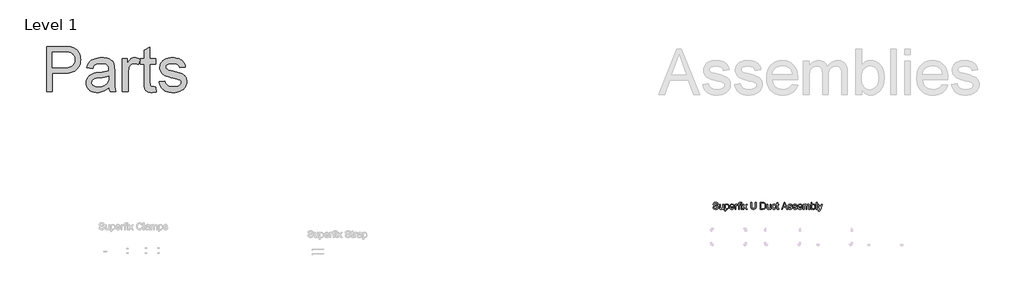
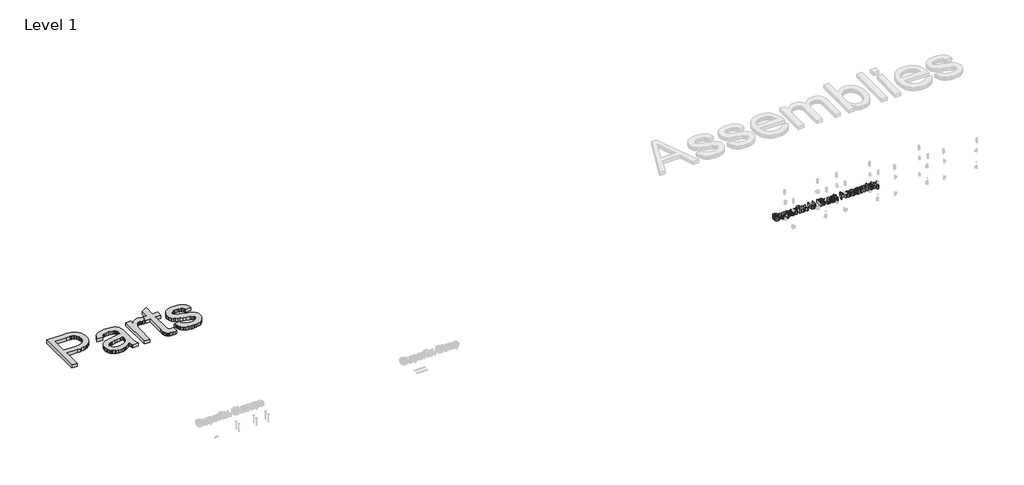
# One storey, part 30 of 32: 2 proxies.
"""IFC4 building model written with IfcOpenShell, lengths in millimetres."""

from ifc_helpers import new_model, si_unit, origin, origin_with_axes, place, context, project, spatial, polyline, outline, extrude, element, save

model = new_model("IFC4")

# Units and contexts
model_context = context("Model", 3, world=origin())
ifc_project = project(units=[si_unit("LENGTHUNIT", "METRE", prefix="MILLI")], contexts=[model_context])

# Site, building, storey
site = spatial("IfcSite", under=ifc_project)
building = spatial("IfcBuilding", under=site)
storey = spatial("IfcBuildingStorey", under=building, Name="Level 1", Elevation=0.0)

# Proxies
placement = place(None, origin())
element("IfcBuildingElementProxy", 1, Name="2000mm Arial", ObjectType="2000mm Arial", at=placement, inside=storey, context=model_context, shape_type="SweptSolid", body=[
    extrude(outline(polyline([(-52092.9276669, 35564.9201987), (-52092.9276669, 37574.0464017), (-51348.3345086, 37574.0464017), (-51174.9394616, 37569.2639358), (-51105.7163328, 37563.2858534), (-51048.1428006, 37554.916538), (-50978.2605499, 37539.8487046), (-50914.295068, 37519.1706708), (-50856.2463548, 37492.8824365), (-50804.1144104, 37460.9840019), (-50757.3474118, 37422.8162449), (-50715.3935359, 37377.7200436), (-50678.2527828, 37325.6953981), (-50645.9251525, 37266.7423084), (-50619.7442172, 37202.8074833), (-50601.0435491, 37135.8376318), (-50589.8231482, 37065.8327538), (-50586.0830146, 36992.7928493), (-50588.6083712, 36929.8926924), (-50596.1844411, 36869.4604105), (-50608.8112241, 36811.4960036), (-50626.4887204, 36755.9994718), (-50649.2169299, 36702.970815), (-50676.9958527, 36652.4100333), (-50709.8254887, 36604.3171266), (-50747.7058378, 36558.692095), (-50792.1774061, 36517.0754443), (-50844.7806993, 36481.0076804), (-50905.5157175, 36450.4888032), (-50974.3824605, 36425.5188128), (-51051.3809286, 36406.0977091), (-51136.5111215, 36392.2254922), (-51229.7730394, 36383.9021621), (-51331.1666822, 36381.1277187), (-51841.7868915, 36381.1277187), (-51841.7868915, 35564.9201987), (-52092.9276669, 35564.9201987)]), holes=[polyline([(-51841.7868915, 36632.2684941), (-51316.4514024, 36632.2684941), (-51195.6634806, 36638.0319787), (-51142.3512482, 36645.2363344), (-51093.760168, 36655.3224324), (-51049.89024, 36668.2902728), (-51010.7414644, 36684.1398554), (-50976.313841, 36702.8711803), (-50946.6073699, 36724.4842475), (-50920.9705934, 36748.7108098), (-50898.7520537, 36775.2826197), (-50879.9517509, 36804.1996774), (-50864.569685, 36835.4619827), (-50852.6058559, 36869.0695358), (-50844.0602637, 36905.0223367), (-50838.9329084, 36943.3203852), (-50837.22379, 36983.9636815), (-50841.2551635, 37042.579546), (-50853.3492841, 37096.7808266), (-50873.5061518, 37146.5675233), (-50901.7257665, 37191.9396361), (-50936.5059435, 37231.4256369), (-50976.3444978, 37263.5539978), (-51021.2414297, 37288.3247188), (-51071.1967389, 37305.7377999), (-51112.4608361, 37313.248724), (-51168.072331, 37318.6136697), (-51322.3375143, 37322.9056264), (-51841.7868915, 37322.9056264), (-51841.7868915, 36632.2684941)])]), origin_with_axes(), (0.0, 0.0, 1.0), 150.0),
    extrude(outline(polyline([(-49330.3791378, 35753.2757803), (-49389.9300357, 35697.3883738), (-49450.3699819, 35650.3914489), (-49511.6989761, 35612.2850056), (-49573.9170186, 35583.0690438), (-49637.7292163, 35561.3946629), (-49703.8406765, 35545.9129623), (-49772.2513992, 35536.6239419), (-49842.9613844, 35533.5276018), (-49900.5923982, 35535.3900044), (-49954.7821825, 35540.9772122), (-50005.5307373, 35550.2892252), (-50052.8380626, 35563.3260434), (-50096.7041584, 35580.0876668), (-50137.1290248, 35600.5740954), (-50174.1126616, 35624.7853292), (-50207.6550689, 35652.7213682), (-50237.4879995, 35683.554478), (-50263.3432059, 35716.4569239), (-50285.2206883, 35751.4287061), (-50303.1204467, 35788.4698245), (-50317.0424809, 35827.5802791), (-50326.9867911, 35868.7600699), (-50332.9533772, 35912.009197), (-50334.9422393, 35957.3276603), (-50331.9378696, 36010.5785791), (-50322.9247607, 36061.4382649), (-50307.9029126, 36109.9067178), (-50286.8723252, 36155.9839377), (-50260.951973, 36198.6582491), (-50231.2608303, 36236.9179766), (-50197.7988971, 36270.7631201), (-50160.5661735, 36300.1936798), (-50120.2371098, 36325.7614784), (-50077.4861563, 36348.0183391), (-50032.313313, 36366.9642619), (-49984.7185798, 36382.5992467), (-49894.3422364, 36401.8517378), (-49767.422948, 36420.3684649), (-49629.2832588, 36439.3757013), (-49510.6413154, 36460.0997203), (-49411.4971177, 36482.540522), (-49331.8506657, 36506.6981064), (-49330.3791378, 36562.6161697), (-49334.7017512, 36623.5006399), (-49347.6695915, 36674.6975509), (-49369.2826588, 36716.2069026), (-49383.3311524, 36733.3287438), (-49399.5409529, 36748.0286952), (-49424.2656886, 36765.0432375), (-49451.8415098, 36779.7891741), (-49515.5464087, 36802.4752305), (-49590.6556493, 36816.0868643), (-49677.1692319, 36820.6240756), (-49757.6127615, 36817.6043776), (-49826.7745766, 36808.5452834), (-49884.6546772, 36793.4467932), (-49931.2530632, 36772.3089069), (-49969.5434475, 36743.4761555), (-50002.4995429, 36705.2930701), (-50030.1213494, 36657.7596507), (-50052.408867, 36600.8758972), (-50303.5496423, 36632.2684941), (-50284.435107, 36704.6186198), (-50259.9556259, 36769.6111056), (-50230.111199, 36827.2459515), (-50194.9018264, 36877.5231575), (-50152.8099948, 36921.4543991), (-50102.318191, 36960.0513518), (-50043.4264149, 36993.3140155), (-49976.1346666, 37021.2423903), (-49901.8071752, 37043.3459669), (-49821.8081697, 37059.1342358), (-49736.13765, 37068.6071972), (-49644.7956163, 37071.764851), (-49555.5075904, 37068.9750792), (-49475.0180755, 37060.6057638), (-49403.3270717, 37046.6569048), (-49340.434579, 37027.1285022), (-49285.8194311, 37003.3847851), (-49238.960462, 36976.7899826), (-49199.8576716, 36947.3440945), (-49168.5110599, 36915.047121), (-49143.0965454, 36879.1019844), (-49121.7900465, 36838.711607), (-49104.5915632, 36793.8759889), (-49091.5010956, 36744.5951299), (-49082.3040457, 36657.7749791), (-49079.2383624, 36524.8469515), (-49079.2383624, 36212.3925102), (-49076.0500518, 35940.2211475), (-49066.4851199, 35776.084464), (-49058.575657, 35721.5919434), (-49047.6005108, 35668.2337257), (-49033.5596813, 35616.0098108), (-49016.4531685, 35564.9201987), (-49267.5939439, 35564.9201987), (-49289.9121183, 35606.8587462), (-49307.8157087, 35652.2308589), (-49321.3047152, 35701.0365369), (-49330.3791378, 35753.2757803)]), holes=[polyline([(-49330.3791378, 36255.557331), (-49406.2854561, 36233.8216365), (-49499.1143462, 36213.7414109), (-49608.8658081, 36195.3166543), (-49735.5398418, 36178.5473667), (-49865.8313817, 36159.2948756), (-49914.2845062, 36148.8408956), (-49951.6092003, 36137.8350926), (-49981.5455976, 36125.2351342), (-50007.8338319, 36109.9986883), (-50030.473903, 36092.1257547), (-50049.465811, 36071.6163334), (-50064.4876591, 36049.2061886), (-50075.2175507, 36025.631084), (-50081.6554856, 36000.8910199), (-50083.8014639, 35974.985996), (-50079.1262969, 35935.9598477), (-50065.1007958, 35900.305951), (-50041.7249607, 35868.0243059), (-50008.9987915, 35839.1149125), (-49967.2288567, 35815.2945533), (-49916.7217244, 35798.280011), (-49857.4773948, 35788.0712856), (-49789.4958677, 35784.6683772), (-49720.088798, 35788.4238392), (-49654.6058028, 35799.6902253), (-49593.0468823, 35818.4675355), (-49535.4120364, 35844.7557697), (-49483.4180478, 35876.3782929), (-49438.781699, 35911.1584699), (-49401.5029902, 35949.0963006), (-49371.5819212, 35990.1917852), (-49354.1994969, 36026.9799847), (-49341.7834796, 36071.6163334), (-49334.3338692, 36124.1008314), (-49331.8506657, 36184.4334786), (-49330.3791378, 36255.557331)])]), origin_with_axes(), (0.0, 0.0, 1.0), 150.0),
    extrude(outline(polyline([(-48733.9197962, 35564.9201987), (-48733.9197962, 37040.3722541), (-48514.1716178, 37040.3722541), (-48514.1716178, 36822.0956036), (-48472.7848933, 36891.8705553), (-48432.9923242, 36948.6470099), (-48394.7939104, 36992.4249674), (-48358.1896518, 37023.2044276), (-48321.5240797, 37044.4496128), (-48283.1417248, 37059.6247451), (-48243.0425873, 37068.7298245), (-48201.2266672, 37071.764851), (-48138.9319827, 37066.9210714), (-48076.1467889, 37052.3897326), (-48012.8710857, 37028.1708345), (-47949.1048732, 36994.2643773), (-48032.9819681, 36769.1205963), (-48077.1278075, 36791.6533685), (-48121.2736469, 36807.7482058), (-48165.4194864, 36817.4051081), (-48209.5653258, 36820.6240756), (-48248.0549795, 36817.5277355), (-48284.5519391, 36808.2387151), (-48319.0562046, 36792.7570145), (-48351.5677759, 36771.0826336), (-48380.8603798, 36743.9206796), (-48405.7077429, 36711.9762597), (-48426.1098652, 36675.2493738), (-48442.0667467, 36633.7400221), (-48459.8783667, 36565.1913436), (-48472.6009523, 36493.4543546), (-48480.2345037, 36418.5290549), (-48482.7790209, 36340.4154446), (-48482.7790209, 35564.9201987), (-48733.9197962, 35564.9201987)])), origin_with_axes(), (0.0, 0.0, 1.0), 150.0),
    extrude(outline(polyline([(-47258.4677409, 35774.3676813), (-47227.075144, 35557.5625588), (-47326.52591, 35539.5363411), (-47414.9402162, 35533.5276018), (-47479.0436539, 35536.1334326), (-47535.4828833, 35543.950925), (-47584.2579045, 35556.980079), (-47625.3687174, 35575.2208946), (-47659.8883113, 35597.6923531), (-47688.8896753, 35623.413436), (-47712.3728093, 35652.3841431), (-47730.3377134, 35684.6044745), (-47743.6427789, 35727.7999521), (-47753.1463971, 35789.6960978), (-47758.848568, 35870.2929116), (-47760.7492917, 35969.5903934), (-47760.7492917, 36789.2314787), (-47949.1048732, 36789.2314787), (-47949.1048732, 37040.3722541), (-47760.7492917, 37040.3722541), (-47760.7492917, 37398.934572), (-47509.6085163, 37546.5778794), (-47509.6085163, 37040.3722541), (-47258.4677409, 37040.3722541), (-47258.4677409, 36789.2314787), (-47509.6085163, 36789.2314787), (-47509.6085163, 35976.9480333), (-47506.2975783, 35894.2972117), (-47502.1589059, 35866.3994938), (-47496.3647645, 35847.453571), (-47479.012997, 35821.5178904), (-47453.4451984, 35801.590949), (-47417.2088218, 35788.8990201), (-47367.8513208, 35784.6683772), (-47319.9040341, 35782.0932032), (-47258.4677409, 35774.3676813)])), origin_with_axes(), (0.0, 0.0, 1.0), 150.0),
    extrude(outline(polyline([(-47101.5047563, 36004.4165556), (-46850.3639809, 36035.8091526), (-46835.1888486, 35978.5421886), (-46810.7553528, 35928.38761), (-46777.0634934, 35885.3454165), (-46734.1132705, 35849.4156083), (-46681.7820567, 35821.0886947), (-46619.9472246, 35800.855185), (-46548.6087744, 35788.7150791), (-46467.766706, 35784.6683772), (-46387.016608, 35788.377854), (-46317.4255973, 35799.5062843), (-46258.9936737, 35818.0536682), (-46211.7208373, 35844.0200057), (-46175.2392061, 35874.983407), (-46149.1808981, 35908.5219822), (-46133.5459133, 35944.6357314), (-46128.3342517, 35983.3246546), (-46133.5765702, 36017.2311118), (-46149.3035255, 36047.3361217), (-46175.5151176, 36073.6396844), (-46212.2113466, 36096.1417998), (-46250.4404173, 36111.1023342), (-46306.2665101, 36128.024906), (-46470.7097619, 36167.7561615), (-46595.3297878, 36202.1071428), (-46699.9002449, 36234.0362343), (-46784.4211333, 36263.543436), (-46848.892453, 36290.6287479), (-46900.0433787, 36319.0016468), (-46944.6030854, 36352.3716094), (-46982.571573, 36390.7386358), (-47013.9488415, 36434.102726), (-47038.5202931, 36481.1609646), (-47056.0713299, 36530.6104361), (-47066.601952, 36582.4511406), (-47070.1121594, 36636.683078), (-47067.2917308, 36686.2705053), (-47058.8304449, 36733.9878657), (-47044.7283017, 36779.8351594), (-47024.9853013, 36823.8123862), (-47000.3678645, 36865.0304981), (-46971.642412, 36902.6004469), (-46938.8089439, 36936.5222325), (-46901.8674603, 36966.795855), (-46869.8157414, 36987.811114), (-46832.5217042, 37007.2015608), (-46789.9853485, 37024.9671955), (-46742.2066744, 37041.108018), (-46690.9024644, 37054.5203825), (-46637.7895014, 37064.1006427), (-46582.8677852, 37069.8487989), (-46526.1373159, 37071.764851), (-46441.7390548, 37068.6838393), (-46362.6750827, 37059.4408041), (-46288.9453995, 37044.0357456), (-46220.5500052, 37022.4686636), (-46159.113712, 36995.6439348), (-46106.261332, 36964.4659357), (-46061.9928653, 36928.9346664), (-46026.3083117, 36889.0501267), (-45997.3682615, 36843.4174309), (-45973.3333044, 36790.641693), (-45954.2034407, 36730.722913), (-45939.9786702, 36663.661091), (-46191.1194456, 36632.2684941), (-46203.0909388, 36674.2223699), (-46222.8186108, 36711.3018094), (-46250.3024616, 36743.5068124), (-46285.542491, 36770.8373789), (-46328.6919834, 36792.6190587), (-46379.9042228, 36808.1774014), (-46439.1792092, 36817.5124071), (-46506.5169428, 36820.6240756), (-46584.6305531, 36817.6503628), (-46650.7266849, 36808.7292244), (-46704.8053382, 36793.8606605), (-46746.866513, 36773.0446709), (-46778.4123941, 36748.2739499), (-46800.9451663, 36721.5411916), (-46814.4648296, 36692.8463959), (-46818.971384, 36662.189563), (-46817.1013172, 36642.3545921), (-46811.4911168, 36623.5619535), (-46802.1407827, 36605.8116473), (-46789.0503151, 36589.1036733), (-46771.9744591, 36572.9475224), (-46750.6679602, 36558.324213), (-46695.3630336, 36533.6761194), (-46479.0484205, 36480.2106027), (-46257.1542637, 36414.6049803), (-46174.3961432, 36386.6766055), (-46110.4306613, 36361.9978549), (-46058.8045547, 36336.3380858), (-46013.0645599, 36305.466655), (-45973.2106771, 36269.3835627), (-45939.2429062, 36228.0888087), (-45912.0962807, 36181.5210795), (-45892.7058338, 36129.6190613), (-45881.0715657, 36072.3827542), (-45877.1934764, 36009.8121582), (-45881.7460161, 35946.9656507), (-45895.4036351, 35885.9585532), (-45918.1663336, 35826.7908656), (-45950.0341114, 35769.4625881), (-45990.4858025, 35716.2576545), (-46039.0002406, 35669.459999), (-46095.5774258, 35629.0696216), (-46160.217358, 35595.0865223), (-46231.1572694, 35568.1544946), (-46306.6343921, 35548.9173319), (-46386.648726, 35537.3750343), (-46471.2002712, 35533.5276018), (-46540.9215735, 35535.3823402), (-46606.3662476, 35540.9465554), (-46667.5342935, 35550.2202473), (-46724.4257113, 35563.2034161), (-46777.0405008, 35579.8960616), (-46825.3786621, 35600.2981839), (-46869.4401952, 35624.409783), (-46909.2251002, 35652.2308589), (-46945.1702368, 35683.7000979), (-46977.7124649, 35718.7561864), (-47006.8517846, 35757.3991243), (-47032.5881959, 35799.6289117), (-47054.9216987, 35845.4455485), (-47073.852293, 35894.8490347), (-47089.3799789, 35947.8393705), (-47101.5047563, 36004.4165556)])), origin_with_axes(), (0.0, 0.0, 1.0), 150.0),
])
element("IfcBuildingElementProxy", 2, Name="300mm Arial 2", ObjectType="300mm Arial 2", at=placement, inside=storey, context=model_context, shape_type="SweptSolid", body=[
    extrude(outline(polyline([(-22560.2603171, 30453.0745423), (-22522.5892008, 30453.0745423), (-22518.2665873, 30432.1696479), (-22510.4490949, 30415.3666378), (-22498.2538068, 30402.0309154), (-22480.7978061, 30391.5278845), (-22459.4606504, 30384.7128705), (-22435.6218971, 30382.4411992), (-22414.6342293, 30384.1610475), (-22396.2585236, 30389.3205925), (-22381.3684999, 30397.4875728), (-22370.8378778, 30408.2297271), (-22364.5746868, 30420.5629709), (-22362.4869565, 30433.5032201), (-22364.0504549, 30446.1123755), (-22368.7409504, 30457.0108796), (-22378.2690941, 30466.309097), (-22394.3455372, 30474.1173924), (-22449.1967427, 30488.5015784), (-22485.203193, 30498.020525), (-22508.241803, 30507.0796192), (-22526.9945877, 30519.7531539), (-22540.2843247, 30535.1122272), (-22548.2029847, 30552.8257453), (-22550.842538, 30572.5626143), (-22547.5775853, 30594.626337), (-22537.7827272, 30615.2001375), (-22521.715481, 30632.6377441), (-22499.6333643, 30645.2928848), (-22473.1274665, 30652.9908155), (-22443.7888774, 30655.5567924), (-22412.003873, 30652.8712539), (-22384.1919942, 30644.8146382), (-22361.3465223, 30631.5524922), (-22344.4607387, 30613.250363), (-22333.7737667, 30591.0486846), (-22329.5247297, 30566.0878912), (-22367.195846, 30566.0878912), (-22374.1120275, 30588.5654811), (-22388.5330017, 30604.7890771), (-22411.0657739, 30614.6115264), (-22442.3173494, 30617.8856761), (-22474.3046889, 30614.6483146), (-22496.2488499, 30604.9362299), (-22508.9407787, 30590.6440144), (-22513.1714217, 30573.6662603), (-22510.1731834, 30559.1901038), (-22501.1784686, 30547.5466386), (-22479.9148893, 30537.1355782), (-22439.6685991, 30526.5037885), (-22398.1347218, 30516.4054277), (-22373.0083815, 30507.594654), (-22351.5332701, 30493.9278378), (-22336.5512758, 30477.0604484), (-22327.7496991, 30457.1764265), (-22324.8158402, 30434.4597133), (-22328.1911575, 30411.2371624), (-22338.3171094, 30389.3941689), (-22354.7798287, 30370.595399), (-22377.1654481, 30356.5055185), (-22404.0852131, 30347.7039418), (-22434.1503691, 30344.7700829), (-22471.0581303, 30347.9338681), (-22501.435986, 30357.4252235), (-22525.6334243, 30373.2809375), (-22543.9999329, 30395.5377982), (-22555.7905508, 30422.6507013), (-22560.2603171, 30453.0745423)])), origin_with_axes(), (0.0, 0.0, 1.0), 150.0),
    extrude(outline(polyline([(-22131.7513691, 30349.4789724), (-22131.7513691, 30387.5179707), (-22145.381397, 30368.8157698), (-22161.2555051, 30355.4570549), (-22179.3736934, 30347.4418259), (-22199.7359618, 30344.7700829), (-22218.0840763, 30346.6462811), (-22235.1629979, 30352.2748756), (-22249.4920016, 30360.7361615), (-22259.5903624, 30371.1104337), (-22270.8107633, 30398.8487362), (-22273.0180552, 30433.8711021), (-22273.0180552, 30570.7967807), (-22235.3469389, 30570.7967807), (-22235.3469389, 30451.6030143), (-22233.0660706, 30413.196134), (-22227.5754318, 30400.3846435), (-22218.1668498, 30390.6449677), (-22205.4657239, 30384.4921413), (-22190.0974535, 30382.4411992), (-22173.8462664, 30384.5381266), (-22158.6435429, 30390.8289087), (-22146.1079639, 30400.7341314), (-22137.8582102, 30413.6743806), (-22133.2780794, 30431.3970957), (-22131.7513691, 30455.6497162), (-22131.7513691, 30570.7967807), (-22094.0802528, 30570.7967807), (-22094.0802528, 30349.4789724), (-22131.7513691, 30349.4789724)])), origin_with_axes(), (0.0, 0.0, 1.0), 150.0),
    extrude(outline(polyline([(-22042.2824679, 30264.7189607), (-22042.2824679, 30570.7967807), (-22004.6113516, 30570.7967807), (-22004.6113516, 30533.8614284), (-21992.3240929, 30552.0807842), (-21978.5653063, 30565.0946098), (-21962.5256513, 30572.9029052), (-21943.3957876, 30575.5056703), (-21917.9199594, 30571.8636385), (-21895.6447046, 30560.9375433), (-21877.5081222, 30543.3895721), (-21864.4483114, 30519.8819126), (-21856.5572426, 30492.1252161), (-21853.9268863, 30461.8301338), (-21856.8975334, 30429.612868), (-21865.8094748, 30400.7985108), (-21880.3776018, 30376.8493929), (-21900.3168059, 30359.2278453), (-21923.5393569, 30348.3845235), (-21947.9575243, 30344.7700829), (-21965.2755692, 30347.188907), (-21980.7358101, 30354.4453794), (-21993.9703648, 30365.3990658), (-22004.6113516, 30378.909532), (-22004.6113516, 30264.7189607), (-22042.2824679, 30264.7189607)]), holes=[polyline([(-22004.6113516, 30458.372043), (-22000.5370585, 30424.6004758), (-21988.3141792, 30400.9824518), (-21970.2787644, 30387.0765123), (-21948.7668647, 30382.4411992), (-21926.9054771, 30387.2420592), (-21908.4102098, 30401.6446393), (-21895.8010544, 30426.1271861), (-21891.5980026, 30461.1679462), (-21895.6998869, 30494.7555723), (-21908.0055396, 30518.7046902), (-21926.0133633, 30533.052088), (-21947.2217603, 30537.834554), (-21968.5129308, 30532.7485854), (-21987.2105332, 30517.4906796), (-22000.261147, 30492.5390833), (-22004.6113516, 30458.372043)])]), origin_with_axes(), (0.0, 0.0, 1.0), 150.0),
    extrude(outline(polyline([(-21656.5949841, 30415.403426), (-21619.6596318, 30410.6945364), (-21632.967763, 30382.8642635), (-21654.2037511, 30362.0605367), (-21682.8893497, 30349.0926963), (-21718.5463121, 30344.7700829), (-21741.9206144, 30346.6347848), (-21762.7473338, 30352.2288903), (-21781.0264705, 30361.5523997), (-21796.7580243, 30374.6053127), (-21809.4085664, 30391.024346), (-21818.4446679, 30410.4462161), (-21823.8663288, 30432.8709229), (-21825.6735491, 30458.2984666), (-21823.8479347, 30484.5882337), (-21818.3710915, 30507.7602009), (-21809.2430195, 30527.8143681), (-21796.4637187, 30544.7507355), (-21780.7735516, 30558.2060194), (-21762.9128807, 30567.8169366), (-21742.8817061, 30573.5834868), (-21720.6800277, 30575.5056703), (-21699.1934199, 30573.5880854), (-21679.7623528, 30567.8353307), (-21662.3868263, 30558.2474062), (-21647.0668404, 30544.8243119), (-21634.5611519, 30527.9247327), (-21625.6285172, 30507.9073537), (-21620.2689364, 30484.7721747), (-21618.4824094, 30458.5191958), (-21618.7031386, 30448.3656527), (-21788.0024328, 30448.3656527), (-21781.4817244, 30420.1674978), (-21766.3341833, 30399.4373474), (-21744.4727957, 30386.6902362), (-21717.8105481, 30382.4411992), (-21697.7609794, 30384.4093679), (-21680.8751958, 30390.3138739), (-21667.1531974, 30400.5225993), (-21656.5949841, 30415.403426)]), holes=[polyline([(-21788.0024328, 30486.036769), (-21656.1535257, 30486.036769), (-21661.2486914, 30505.939185), (-21671.2366875, 30520.1762182), (-21693.1992426, 30533.41997), (-21720.8271805, 30537.834554), (-21746.2202352, 30534.3120839), (-21767.2171001, 30523.7446735), (-21781.8128182, 30507.2727572), (-21788.0024328, 30486.036769)])]), origin_with_axes(), (0.0, 0.0, 1.0), 150.0),
    extrude(outline(polyline([(-21580.8112931, 30349.4789724), (-21580.8112931, 30570.7967807), (-21547.8490663, 30570.7967807), (-21547.8490663, 30538.0552832), (-21535.6721723, 30557.0379941), (-21524.4517714, 30568.2216068), (-21513.1945824, 30573.6846544), (-21500.9073238, 30575.5056703), (-21482.145342, 30572.5994025), (-21463.0890547, 30563.8805992), (-21475.6706189, 30530.1090321), (-21488.9143707, 30535.9031735), (-21502.1581225, 30537.834554), (-21513.4061145, 30535.9767499), (-21523.4584901, 30530.4033377), (-21531.5794851, 30521.5373816), (-21537.0333357, 30509.8019459), (-21541.6134665, 30488.7590958), (-21543.1401768, 30465.8032593), (-21543.1401768, 30349.4789724), (-21580.8112931, 30349.4789724)])), origin_with_axes(), (0.0, 0.0, 1.0), 150.0),
    extrude(outline(polyline([(-21430.1268279, 30349.4789724), (-21430.1268279, 30533.1256644), (-21463.0890547, 30533.1256644), (-21463.0890547, 30570.7967807), (-21430.1268279, 30570.7967807), (-21430.1268279, 30593.0904296), (-21426.1537023, 30624.507552), (-21418.5753332, 30637.033934), (-21406.8766858, 30646.9483537), (-21390.505937, 30653.4046827), (-21368.9112639, 30655.5567924), (-21334.5510855, 30651.4365141), (-21340.0693155, 30616.1198425), (-21361.7743532, 30617.8856761), (-21376.0941598, 30616.3221776), (-21385.5027419, 30611.6316822), (-21390.7174692, 30602.6737556), (-21392.4557116, 30588.3079637), (-21392.4557116, 30570.7967807), (-21350.0757057, 30570.7967807), (-21350.0757057, 30533.1256644), (-21392.4557116, 30533.1256644), (-21392.4557116, 30349.4789724), (-21430.1268279, 30349.4789724)])), origin_with_axes(), (0.0, 0.0, 1.0), 150.0),
    extrude(outline(polyline([(-21317.113479, 30349.4789724), (-21317.113479, 30570.7967807), (-21279.4423627, 30570.7967807), (-21279.4423627, 30349.4789724), (-21317.113479, 30349.4789724)])), origin_with_axes(), (0.0, 0.0, 1.0), 150.0),
    extrude(outline(polyline([(-21317.113479, 30613.1767866), (-21317.113479, 30650.8479029), (-21279.4423627, 30650.8479029), (-21279.4423627, 30613.1767866), (-21317.113479, 30613.1767866)])), origin_with_axes(), (0.0, 0.0, 1.0), 150.0),
    extrude(outline(polyline([(-21246.4801359, 30349.4789724), (-21165.9875553, 30460.7264878), (-21241.7712464, 30570.7967807), (-21196.4481845, 30570.7967807), (-21159.8807142, 30517.8217734), (-21142.8109897, 30492.8057978), (-21128.0221334, 30513.2600367), (-21086.3778916, 30570.7967807), (-21041.0548298, 30570.7967807), (-21120.6644935, 30460.7264878), (-21043.9978857, 30349.4789724), (-21089.3209476, 30349.4789724), (-21135.4533497, 30416.3599192), (-21143.9146356, 30428.5736014), (-21201.1570741, 30349.4789724), (-21246.4801359, 30349.4789724)])), origin_with_axes(), (0.0, 0.0, 1.0), 150.0),
    extrude(outline(polyline([(-20690.8311704, 30650.8479029), (-20653.1600541, 30650.8479029), (-20653.1600541, 30476.986872), (-20655.7168339, 30436.2715321), (-20663.3871735, 30404.9187891), (-20677.7161773, 30380.7305479), (-20700.2489495, 30361.5087137), (-20731.0406725, 30348.9547406), (-20770.1465285, 30344.7700829), (-20808.397059, 30348.4121146), (-20838.9772498, 30359.3382099), (-20861.8962981, 30377.1712896), (-20877.1634009, 30401.5342747), (-20885.7442485, 30434.211393), (-20888.604531, 30476.986872), (-20888.604531, 30650.8479029), (-20850.9334147, 30650.8479029), (-20850.9334147, 30478.3112471), (-20849.0756106, 30444.4569065), (-20843.5021984, 30420.8848677), (-20833.4038376, 30404.5601042), (-20817.9711879, 30392.4475895), (-20797.8480428, 30384.9427968), (-20773.6781957, 30382.4411992), (-20735.3632859, 30387.389212), (-20721.0204866, 30393.5742281), (-20709.8874577, 30402.2332505), (-20701.550332, 30414.4101446), (-20695.5952422, 30431.1487754), (-20690.8311704, 30478.3112471), (-20690.8311704, 30650.8479029)])), origin_with_axes(), (0.0, 0.0, 1.0), 150.0),
    extrude(outline(polyline([(-20469.5133621, 30349.4789724), (-20469.5133621, 30650.8479029), (-20365.5499102, 30650.8479029), (-20311.7655625, 30646.5068953), (-20287.7428683, 30638.1375799), (-20267.4725703, 30624.9490104), (-20246.6320553, 30601.9931739), (-20231.7880168, 30573.4455311), (-20222.9036666, 30539.8579049), (-20219.9422166, 30501.7821184), (-20221.9471734, 30469.436094), (-20227.962044, 30440.9712246), (-20237.1223057, 30416.7369982), (-20248.5634358, 30397.0829026), (-20261.7336112, 30381.5674795), (-20276.081009, 30369.7492704), (-20292.5529254, 30360.9844818), (-20312.0966563, 30354.6293204), (-20360.5467151, 30349.4789724), (-20469.5133621, 30349.4789724)]), holes=[polyline([(-20431.8422458, 30387.1500887), (-20365.1820282, 30387.1500887), (-20337.6092727, 30388.5112521), (-20316.6951813, 30392.5947423), (-20300.9130437, 30399.1614359), (-20288.7361497, 30407.9722097), (-20275.6487477, 30424.2785791), (-20265.8171014, 30445.3858086), (-20259.664275, 30471.3858686), (-20257.6133329, 30502.3707296), (-20261.6324437, 30543.4263603), (-20273.689776, 30573.7398367), (-20291.5044617, 30594.5619576), (-20312.7956321, 30607.1435219), (-20334.4638817, 30611.6684704), (-20366.2120978, 30613.1767866), (-20431.8422458, 30613.1767866), (-20431.8422458, 30387.1500887)])]), origin_with_axes(), (0.0, 0.0, 1.0), 150.0),
    extrude(outline(polyline([(-20031.586635, 30349.4789724), (-20031.586635, 30387.5179707), (-20045.2166629, 30368.8157698), (-20061.090771, 30355.4570549), (-20079.2089593, 30347.4418259), (-20099.5712277, 30344.7700829), (-20117.9193422, 30346.6462811), (-20134.9982639, 30352.2748756), (-20149.3272676, 30360.7361615), (-20159.4256283, 30371.1104337), (-20170.6460292, 30398.8487362), (-20172.8533212, 30433.8711021), (-20172.8533212, 30570.7967807), (-20135.1822049, 30570.7967807), (-20135.1822049, 30451.6030143), (-20132.9013365, 30413.196134), (-20127.4106977, 30400.3846435), (-20118.0021157, 30390.6449677), (-20105.3009898, 30384.4921413), (-20089.9327195, 30382.4411992), (-20073.6815323, 30384.5381266), (-20058.4788089, 30390.8289087), (-20045.9432299, 30400.7341314), (-20037.6934761, 30413.6743806), (-20033.1133453, 30431.3970957), (-20031.586635, 30455.6497162), (-20031.586635, 30570.7967807), (-19993.9155187, 30570.7967807), (-19993.9155187, 30349.4789724), (-20031.586635, 30349.4789724)])), origin_with_axes(), (0.0, 0.0, 1.0), 150.0),
    extrude(outline(polyline([(-19800.8510476, 30429.5300946), (-19763.1799313, 30424.821205), (-19773.6829623, 30391.3163523), (-19793.4198313, 30365.996874), (-19820.5327344, 30350.0767807), (-19853.1638674, 30344.7700829), (-19874.2917902, 30346.6209892), (-19893.2354137, 30352.173708), (-19909.9947378, 30361.4282395), (-19924.5697626, 30374.3845835), (-19936.3672784, 30390.7990183), (-19944.7940753, 30410.427822), (-19949.8501535, 30433.2709946), (-19951.5355129, 30459.3285362), (-19948.6568363, 30492.851783), (-19940.0208064, 30521.9052636), (-19925.4894676, 30545.3669378), (-19904.9248641, 30562.1147656), (-19880.3227557, 30572.1579441), (-19853.6789022, 30575.5056703), (-19821.8479125, 30570.9071453), (-19796.3996755, 30557.1115705), (-19778.1435315, 30534.8547098), (-19767.8888209, 30504.8723272), (-19805.5599372, 30500.1634377), (-19812.3933452, 30516.5985658), (-19823.034332, 30528.3799867), (-19836.8942861, 30535.4709121), (-19853.3845966, 30537.834554), (-19877.7291876, 30533.1808467), (-19897.0521894, 30519.219725), (-19909.6613448, 30495.1970307), (-19913.8643966, 30460.3586058), (-19909.7533153, 30425.0511313), (-19897.4200714, 30400.9456636), (-19878.4465575, 30387.0673153), (-19854.4146661, 30382.4411992), (-19834.9077234, 30385.3290729), (-19818.9140536, 30393.9926938), (-19807.2797855, 30408.6527914), (-19800.8510476, 30429.5300946)])), origin_with_axes(), (0.0, 0.0, 1.0), 150.0),
    extrude(outline(polyline([(-19650.1665824, 30380.8960948), (-19645.4576929, 30348.3753264), (-19673.6374537, 30344.7700829), (-19691.7188538, 30346.3335814), (-19705.2017289, 30351.0240768), (-19714.7298726, 30358.252958), (-19720.9470783, 30367.4316138), (-19724.3683809, 30383.1953573), (-19725.508815, 30410.1795016), (-19725.508815, 30533.1256644), (-19753.7621523, 30533.1256644), (-19753.7621523, 30570.7967807), (-19725.508815, 30570.7967807), (-19725.508815, 30624.5811284), (-19687.8376987, 30646.7276245), (-19687.8376987, 30570.7967807), (-19650.1665824, 30570.7967807), (-19650.1665824, 30533.1256644), (-19687.8376987, 30533.1256644), (-19687.8376987, 30411.2831476), (-19685.851136, 30391.8589783), (-19679.413201, 30384.979585), (-19666.5741194, 30382.4411992), (-19650.1665824, 30380.8960948)])), origin_with_axes(), (0.0, 0.0, 1.0), 150.0),
    extrude(outline(polyline([(-19525.1602805, 30349.4789724), (-19404.862868, 30650.8479029), (-19372.7835581, 30650.8479029), (-19252.4861456, 30349.4789724), (-19292.2909775, 30349.4789724), (-19326.7983087, 30443.6567632), (-19450.9216938, 30443.6567632), (-19485.3554486, 30349.4789724), (-19525.1602805, 30349.4789724)]), holes=[polyline([(-19437.0893308, 30481.3278795), (-19340.5570953, 30481.3278795), (-19367.7067865, 30555.4193133), (-19388.823213, 30613.1767866), (-19407.5851948, 30561.8940364), (-19437.0893308, 30481.3278795)])]), origin_with_axes(), (0.0, 0.0, 1.0), 150.0),
    extrude(outline(polyline([(-19231.0754135, 30415.403426), (-19193.4042972, 30420.1123155), (-19187.463003, 30403.9990841), (-19175.9666906, 30392.1532839), (-19158.8417838, 30384.8692204), (-19136.014706, 30382.4411992), (-19113.4635397, 30384.6668853), (-19097.6078257, 30391.3439435), (-19088.2268348, 30401.01924), (-19085.0998378, 30412.2396408), (-19088.2452289, 30421.8413609), (-19097.6814021, 30429.1622126), (-19136.4561644, 30439.9043668), (-19193.183568, 30458.3352548), (-19207.5401629, 30467.596684), (-19217.9420263, 30479.8563515), (-19224.2603996, 30494.332508), (-19226.366524, 30510.2434043), (-19224.6742668, 30524.8391225), (-19219.5974953, 30538.3128006), (-19211.5960619, 30550.1310096), (-19201.1298191, 30559.7603209), (-19177.1807012, 30570.9071453), (-19144.7702974, 30575.5056703), (-19120.2509625, 30573.6570632), (-19098.9322008, 30568.1112422), (-19081.7888999, 30559.410833), (-19069.7959468, 30548.0984616), (-19061.8496957, 30533.3371966), (-19056.8465006, 30514.2901063), (-19094.5176169, 30509.5812167), (-19099.2724917, 30521.436214), (-19108.6810737, 30530.3665495), (-19122.8353335, 30535.9675528), (-19141.8272415, 30537.834554), (-19163.4587028, 30536.0503263), (-19177.879677, 30530.6976433), (-19185.991475, 30522.9721214), (-19188.6954077, 30514.0693771), (-19184.2072473, 30503.1064936), (-19170.1541551, 30494.7923605), (-19137.7069631, 30486.772533), (-19082.4142993, 30469.0406209), (-19067.8093841, 30460.5609409), (-19056.736136, 30448.9542639), (-19049.7555751, 30434.1838018), (-19047.4287215, 30416.2127664), (-19050.1602453, 30397.6347256), (-19058.3548168, 30380.1603308), (-19071.6997362, 30365.1599425), (-19089.8823038, 30354.003921), (-19111.8448589, 30347.0785424), (-19136.5297408, 30344.7700829), (-19174.5135568, 30349.221455), (-19202.2334651, 30362.5755715), (-19220.7379295, 30384.6852794), (-19231.0754135, 30415.403426)])), origin_with_axes(), (0.0, 0.0, 1.0), 150.0),
    extrude(outline(polyline([(-19019.1753843, 30415.403426), (-18981.504268, 30420.1123155), (-18975.5629738, 30403.9990841), (-18964.0666614, 30392.1532839), (-18946.9417545, 30384.8692204), (-18924.1146767, 30382.4411992), (-18901.5635104, 30384.6668853), (-18885.7077964, 30391.3439435), (-18876.3268056, 30401.01924), (-18873.1998086, 30412.2396408), (-18876.3451997, 30421.8413609), (-18885.7813728, 30429.1622126), (-18924.5561351, 30439.9043668), (-18981.2835388, 30458.3352548), (-18995.6401337, 30467.596684), (-19006.0419971, 30479.8563515), (-19012.3603703, 30494.332508), (-19014.4664948, 30510.2434043), (-19012.7742376, 30524.8391225), (-19007.697466, 30538.3128006), (-18999.6960327, 30550.1310096), (-18989.2297899, 30559.7603209), (-18965.280672, 30570.9071453), (-18932.8702682, 30575.5056703), (-18908.3509332, 30573.6570632), (-18887.0321716, 30568.1112422), (-18869.8888707, 30559.410833), (-18857.8959176, 30548.0984616), (-18849.9496665, 30533.3371966), (-18844.9464714, 30514.2901063), (-18882.6175877, 30509.5812167), (-18887.3724625, 30521.436214), (-18896.7810445, 30530.3665495), (-18910.9353043, 30535.9675528), (-18929.9272123, 30537.834554), (-18951.5586736, 30536.0503263), (-18965.9796478, 30530.6976433), (-18974.0914458, 30522.9721214), (-18976.7953785, 30514.0693771), (-18972.3072181, 30503.1064936), (-18958.2541259, 30494.7923605), (-18925.8069339, 30486.772533), (-18870.51427, 30469.0406209), (-18855.9093548, 30460.5609409), (-18844.8361068, 30448.9542639), (-18837.8555459, 30434.1838018), (-18835.5286923, 30416.2127664), (-18838.2602161, 30397.6347256), (-18846.4547876, 30380.1603308), (-18859.7997069, 30365.1599425), (-18877.9822745, 30354.003921), (-18899.9448297, 30347.0785424), (-18924.6297115, 30344.7700829), (-18962.6135275, 30349.221455), (-18990.3334359, 30362.5755715), (-19008.8379002, 30384.6852794), (-19019.1753843, 30415.403426)])), origin_with_axes(), (0.0, 0.0, 1.0), 150.0),
    extrude(outline(polyline([(-18638.1967901, 30415.403426), (-18601.2614378, 30410.6945364), (-18614.569569, 30382.8642635), (-18635.8055571, 30362.0605367), (-18664.4911557, 30349.0926963), (-18700.1481181, 30344.7700829), (-18723.5224203, 30346.6347848), (-18744.3491398, 30352.2288903), (-18762.6282764, 30361.5523997), (-18778.3598303, 30374.6053127), (-18791.0103724, 30391.024346), (-18800.0464739, 30410.4462161), (-18805.4681348, 30432.8709229), (-18807.2753551, 30458.2984666), (-18805.4497407, 30484.5882337), (-18799.9728975, 30507.7602009), (-18790.8448255, 30527.8143681), (-18778.0655247, 30544.7507355), (-18762.3753576, 30558.2060194), (-18744.5146867, 30567.8169366), (-18724.4835121, 30573.5834868), (-18702.2818337, 30575.5056703), (-18680.7952259, 30573.5880854), (-18661.3641587, 30567.8353307), (-18643.9886323, 30558.2474062), (-18628.6686464, 30544.8243119), (-18616.1629578, 30527.9247327), (-18607.2303231, 30507.9073537), (-18601.8707423, 30484.7721747), (-18600.0842154, 30458.5191958), (-18600.3049446, 30448.3656527), (-18769.6042388, 30448.3656527), (-18763.0835304, 30420.1674978), (-18747.9359893, 30399.4373474), (-18726.0746017, 30386.6902362), (-18699.4123541, 30382.4411992), (-18679.3627854, 30384.4093679), (-18662.4770018, 30390.3138739), (-18648.7550034, 30400.5225993), (-18638.1967901, 30415.403426)]), holes=[polyline([(-18769.6042388, 30486.036769), (-18637.7553317, 30486.036769), (-18642.8504973, 30505.939185), (-18652.8384935, 30520.1762182), (-18674.8010486, 30533.41997), (-18702.4289864, 30537.834554), (-18727.8220412, 30534.3120839), (-18748.818906, 30523.7446735), (-18763.4146242, 30507.2727572), (-18769.6042388, 30486.036769)])]), origin_with_axes(), (0.0, 0.0, 1.0), 150.0),
    extrude(outline(polyline([(-18562.4130991, 30349.4789724), (-18562.4130991, 30570.7967807), (-18524.7419828, 30570.7967807), (-18524.7419828, 30534.3764632), (-18513.4112173, 30551.1058969), (-18498.8430903, 30564.211693), (-18481.5342424, 30572.682176), (-18461.9813144, 30575.5056703), (-18441.0304348, 30572.6269937), (-18424.2366217, 30563.9909638), (-18411.6918457, 30550.1677978), (-18403.4880772, 30531.7277128), (-18389.7568817, 30550.8805692), (-18374.0943058, 30564.5611809), (-18356.5003493, 30572.7695479), (-18336.9750124, 30575.5056703), (-18308.6572959, 30570.9531306), (-18287.7156133, 30557.2955115), (-18274.7753641, 30534.1649311), (-18270.4619477, 30501.1935072), (-18270.4619477, 30349.4789724), (-18308.133064, 30349.4789724), (-18308.133064, 30485.0066995), (-18311.627943, 30516.46061), (-18316.5391676, 30525.1334281), (-18324.2830836, 30531.948442), (-18334.2434886, 30536.363026), (-18345.8041803, 30537.834554), (-18366.212434, 30534.0637635), (-18382.8498972, 30522.7513922), (-18393.9139482, 30503.1248877), (-18397.6019652, 30474.411698), (-18397.6019652, 30349.4789724), (-18435.2730816, 30349.4789724), (-18435.2730816, 30489.2005542), (-18437.4527824, 30510.5009217), (-18443.9918848, 30525.6944481), (-18455.4973942, 30534.7995275), (-18472.5763159, 30537.834554), (-18487.0892606, 30535.811203), (-18500.4617711, 30529.7411501), (-18511.498231, 30519.771548), (-18519.0030237, 30506.0495496), (-18523.307243, 30487.0116563), (-18524.7419828, 30461.0943698), (-18524.7419828, 30349.4789724), (-18562.4130991, 30349.4789724)])), origin_with_axes(), (0.0, 0.0, 1.0), 150.0),
    extrude(outline(polyline([(-18176.2841569, 30349.4789724), (-18213.9552733, 30349.4789724), (-18213.9552733, 30650.8479029), (-18176.2841569, 30650.8479029), (-18176.2841569, 30539.0853527), (-18163.8957308, 30555.0192417), (-18149.9070179, 30566.4005909), (-18134.3180183, 30573.2294004), (-18117.1287321, 30575.5056703), (-18097.7229569, 30573.4547281), (-18079.3840394, 30567.3019018), (-18063.1604434, 30557.4334673), (-18050.1006326, 30544.2357007), (-18039.8643161, 30527.8373607), (-18032.111203, 30508.3672061), (-18027.2275696, 30486.6345773), (-18025.5996917, 30463.4488145), (-18027.2850511, 30436.6945964), (-18032.3411293, 30413.1593458), (-18040.7679262, 30392.8430626), (-18052.565442, 30375.7457469), (-18066.7265995, 30362.1938939), (-18082.2443219, 30352.5139989), (-18099.1186092, 30346.7060619), (-18117.3494613, 30344.7700829), (-18135.1043661, 30347.2670819), (-18150.845117, 30354.7580791), (-18164.5717139, 30367.2430743), (-18176.2841569, 30384.7220676), (-18176.2841569, 30349.4789724)]), holes=[polyline([(-18176.2841569, 30461.682981), (-18173.708983, 30430.2658586), (-18165.9834611, 30409.0022792), (-18156.8553891, 30397.3818067), (-18146.246592, 30389.0814692), (-18134.15707, 30384.1012667), (-18120.5868229, 30382.4411992), (-18098.844997, 30387.3340297), (-18080.2669562, 30402.0125213), (-18067.5198451, 30426.3847035), (-18063.270808, 30460.3586058), (-18067.3451011, 30494.8291487), (-18079.5679804, 30518.9254194), (-18097.566607, 30533.1072703), (-18118.9681421, 30537.834554), (-18140.709968, 30532.9417234), (-18159.2880088, 30518.2632318), (-18172.0351199, 30494.332508), (-18176.2841569, 30461.682981)])]), origin_with_axes(), (0.0, 0.0, 1.0), 150.0),
    extrude(outline(polyline([(-17983.2196859, 30349.4789724), (-17983.2196859, 30650.8479029), (-17945.5485696, 30650.8479029), (-17945.5485696, 30349.4789724), (-17983.2196859, 30349.4789724)])), origin_with_axes(), (0.0, 0.0, 1.0), 150.0),
    extrude(outline(polyline([(-17889.0418951, 30264.7189607), (-17893.7507847, 30300.9921255), (-17874.6209209, 30297.6811875), (-17856.7418559, 30301.8382541), (-17845.7789725, 30313.4265369), (-17835.4782766, 30341.1648393), (-17832.5352207, 30350.2883128), (-17912.5863428, 30570.7967807), (-17872.8550873, 30570.7967807), (-17830.4015051, 30447.9241943), (-17815.6126489, 30398.7751598), (-17800.8237927, 30442.1852352), (-17757.192988, 30570.7967807), (-17717.7560382, 30570.7967807), (-17794.7905279, 30344.1814717), (-17814.8033085, 30295.0324371), (-17825.0488221, 30279.34227), (-17836.655499, 30268.4713571), (-17850.1383741, 30262.1253927), (-17866.0124822, 30260.0100712), (-17889.0418951, 30264.7189607)])), origin_with_axes(), (0.0, 0.0, 1.0), 150.0),
])

save(model, "model.ifc")
